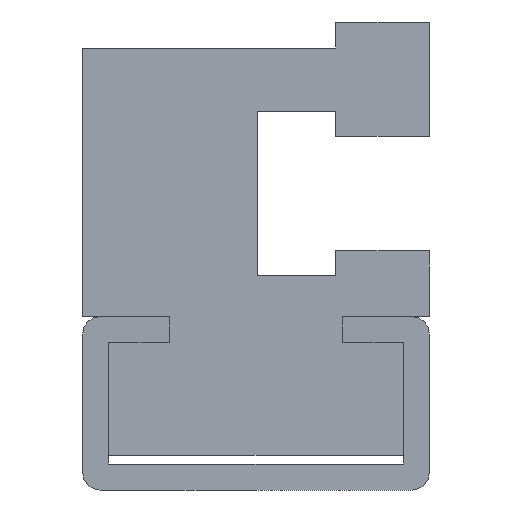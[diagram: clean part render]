
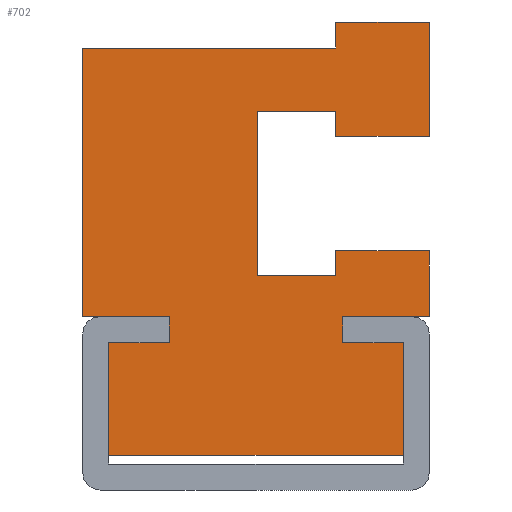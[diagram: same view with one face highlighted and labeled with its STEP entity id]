
A CAD part, front view. The second image highlights one B-rep face of the part: STEP entity #702.
In plain terms, the highlighted planar face has unit normal (0, -1, 0).
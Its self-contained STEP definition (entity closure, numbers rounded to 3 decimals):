
#61=CARTESIAN_POINT('Vertex',(4.6,0.,12.5)) ;
#66=CARTESIAN_POINT('Line Origine',(7.3,0.,12.5)) ;
#70=CARTESIAN_POINT('Vertex',(10.,0.,12.5)) ;
#97=CARTESIAN_POINT('Line Origine',(10.,0.,9.2)) ;
#101=CARTESIAN_POINT('Vertex',(10.,0.,5.9)) ;
#128=CARTESIAN_POINT('Line Origine',(7.3,0.,5.9)) ;
#132=CARTESIAN_POINT('Vertex',(4.6,0.,5.9)) ;
#159=CARTESIAN_POINT('Line Origine',(4.6,0.,6.625)) ;
#163=CARTESIAN_POINT('Vertex',(4.6,0.,7.35)) ;
#190=CARTESIAN_POINT('Line Origine',(2.35,0.,7.35)) ;
#194=CARTESIAN_POINT('Vertex',(0.1,0.,7.35)) ;
#221=CARTESIAN_POINT('Line Origine',(0.1,0.,2.6)) ;
#225=CARTESIAN_POINT('Vertex',(0.1,0.,-2.15)) ;
#252=CARTESIAN_POINT('Line Origine',(2.35,0.,-2.15)) ;
#256=CARTESIAN_POINT('Vertex',(4.6,0.,-2.15)) ;
#278=CARTESIAN_POINT('Line Origine',(4.6,0.,-1.425)) ;
#282=CARTESIAN_POINT('Vertex',(4.6,0.,-0.7)) ;
#309=CARTESIAN_POINT('Line Origine',(7.3,0.,-0.7)) ;
#313=CARTESIAN_POINT('Vertex',(10.,0.,-0.7)) ;
#342=CARTESIAN_POINT('Line Origine',(10.,0.,-2.6)) ;
#346=CARTESIAN_POINT('Vertex',(10.,0.,-4.5)) ;
#366=CARTESIAN_POINT('Line Origine',(7.5,0.,-4.5)) ;
#370=CARTESIAN_POINT('Vertex',(5.,0.,-4.5)) ;
#397=CARTESIAN_POINT('Line Origine',(5.,0.,-5.25)) ;
#401=CARTESIAN_POINT('Vertex',(5.,0.,-6.)) ;
#435=CARTESIAN_POINT('Line Origine',(6.75,0.,-6.)) ;
#439=CARTESIAN_POINT('Vertex',(8.5,0.,-6.)) ;
#465=CARTESIAN_POINT('Vertex',(8.5,0.,-12.5)) ;
#473=CARTESIAN_POINT('Line Origine',(8.5,0.,-9.25)) ;
#497=CARTESIAN_POINT('Line Origine',(0.,0.,-12.5)) ;
#501=CARTESIAN_POINT('Vertex',(-8.5,0.,-12.5)) ;
#521=CARTESIAN_POINT('Line Origine',(-8.5,0.,-9.25)) ;
#525=CARTESIAN_POINT('Vertex',(-8.5,0.,-6.)) ;
#554=CARTESIAN_POINT('Line Origine',(-6.75,0.,-6.)) ;
#558=CARTESIAN_POINT('Vertex',(-5.,0.,-6.)) ;
#578=CARTESIAN_POINT('Line Origine',(-5.,0.,-5.25)) ;
#582=CARTESIAN_POINT('Vertex',(-5.,0.,-4.5)) ;
#604=CARTESIAN_POINT('Line Origine',(-7.5,0.,-4.5)) ;
#608=CARTESIAN_POINT('Vertex',(-10.,0.,-4.5)) ;
#635=CARTESIAN_POINT('Line Origine',(-10.,0.,3.25)) ;
#639=CARTESIAN_POINT('Vertex',(-10.,0.,11.)) ;
#661=CARTESIAN_POINT('Axis2P3D Location',(0.,0.,0.)) ;
#666=CARTESIAN_POINT('Line Origine',(4.6,0.,11.75)) ;
#670=CARTESIAN_POINT('Vertex',(4.6,0.,11.)) ;
#673=CARTESIAN_POINT('Line Origine',(-2.7,0.,11.)) ;
#67=DIRECTION('Vector Direction',(-1.,0.,0.)) ;
#98=DIRECTION('Vector Direction',(0.,0.,1.)) ;
#129=DIRECTION('Vector Direction',(-1.,0.,0.)) ;
#160=DIRECTION('Vector Direction',(0.,0.,1.)) ;
#191=DIRECTION('Vector Direction',(-1.,0.,0.)) ;
#222=DIRECTION('Vector Direction',(0.,0.,-1.)) ;
#253=DIRECTION('Vector Direction',(1.,0.,0.)) ;
#279=DIRECTION('Vector Direction',(0.,0.,1.)) ;
#310=DIRECTION('Vector Direction',(1.,0.,0.)) ;
#343=DIRECTION('Vector Direction',(0.,0.,1.)) ;
#367=DIRECTION('Vector Direction',(-1.,0.,0.)) ;
#398=DIRECTION('Vector Direction',(0.,0.,-1.)) ;
#436=DIRECTION('Vector Direction',(-1.,0.,0.)) ;
#474=DIRECTION('Vector Direction',(0.,0.,1.)) ;
#498=DIRECTION('Vector Direction',(1.,0.,0.)) ;
#522=DIRECTION('Vector Direction',(0.,0.,-1.)) ;
#555=DIRECTION('Vector Direction',(-1.,0.,0.)) ;
#579=DIRECTION('Vector Direction',(0.,0.,1.)) ;
#605=DIRECTION('Vector Direction',(-1.,0.,0.)) ;
#636=DIRECTION('Vector Direction',(0.,0.,-1.)) ;
#662=DIRECTION('Axis2P3D Direction',(0.,1.,0.)) ;
#663=DIRECTION('Axis2P3D XDirection',(-1.,0.,0.)) ;
#667=DIRECTION('Vector Direction',(0.,0.,1.)) ;
#674=DIRECTION('Vector Direction',(1.,0.,0.)) ;
#664=AXIS2_PLACEMENT_3D('Plane Axis2P3D',#661,#662,#663) ;
#679=ORIENTED_EDGE('',*,*,#196,.F.) ;
#680=ORIENTED_EDGE('',*,*,#165,.F.) ;
#681=ORIENTED_EDGE('',*,*,#134,.F.) ;
#682=ORIENTED_EDGE('',*,*,#103,.F.) ;
#683=ORIENTED_EDGE('',*,*,#72,.F.) ;
#684=ORIENTED_EDGE('',*,*,#672,.F.) ;
#685=ORIENTED_EDGE('',*,*,#677,.F.) ;
#686=ORIENTED_EDGE('',*,*,#641,.T.) ;
#687=ORIENTED_EDGE('',*,*,#610,.F.) ;
#688=ORIENTED_EDGE('',*,*,#584,.F.) ;
#689=ORIENTED_EDGE('',*,*,#560,.T.) ;
#690=ORIENTED_EDGE('',*,*,#527,.T.) ;
#691=ORIENTED_EDGE('',*,*,#503,.F.) ;
#692=ORIENTED_EDGE('',*,*,#477,.T.) ;
#693=ORIENTED_EDGE('',*,*,#441,.T.) ;
#694=ORIENTED_EDGE('',*,*,#403,.F.) ;
#695=ORIENTED_EDGE('',*,*,#372,.F.) ;
#696=ORIENTED_EDGE('',*,*,#348,.T.) ;
#697=ORIENTED_EDGE('',*,*,#315,.F.) ;
#698=ORIENTED_EDGE('',*,*,#284,.F.) ;
#699=ORIENTED_EDGE('',*,*,#258,.F.) ;
#700=ORIENTED_EDGE('',*,*,#227,.F.) ;
#68=VECTOR('Line Direction',#67,1.) ;
#99=VECTOR('Line Direction',#98,1.) ;
#130=VECTOR('Line Direction',#129,1.) ;
#161=VECTOR('Line Direction',#160,1.) ;
#192=VECTOR('Line Direction',#191,1.) ;
#223=VECTOR('Line Direction',#222,1.) ;
#254=VECTOR('Line Direction',#253,1.) ;
#280=VECTOR('Line Direction',#279,1.) ;
#311=VECTOR('Line Direction',#310,1.) ;
#344=VECTOR('Line Direction',#343,1.) ;
#368=VECTOR('Line Direction',#367,1.) ;
#399=VECTOR('Line Direction',#398,1.) ;
#437=VECTOR('Line Direction',#436,1.) ;
#475=VECTOR('Line Direction',#474,1.) ;
#499=VECTOR('Line Direction',#498,1.) ;
#523=VECTOR('Line Direction',#522,1.) ;
#556=VECTOR('Line Direction',#555,1.) ;
#580=VECTOR('Line Direction',#579,1.) ;
#606=VECTOR('Line Direction',#605,1.) ;
#637=VECTOR('Line Direction',#636,1.) ;
#668=VECTOR('Line Direction',#667,1.) ;
#675=VECTOR('Line Direction',#674,1.) ;
#702=ADVANCED_FACE('PartBody',(#701),#665,.F.) ;
#72=EDGE_CURVE('',#62,#71,#69,.F.) ;
#103=EDGE_CURVE('',#71,#102,#100,.F.) ;
#134=EDGE_CURVE('',#102,#133,#131,.T.) ;
#165=EDGE_CURVE('',#133,#164,#162,.T.) ;
#196=EDGE_CURVE('',#164,#195,#193,.T.) ;
#227=EDGE_CURVE('',#195,#226,#224,.T.) ;
#258=EDGE_CURVE('',#226,#257,#255,.T.) ;
#284=EDGE_CURVE('',#257,#283,#281,.T.) ;
#315=EDGE_CURVE('',#283,#314,#312,.T.) ;
#348=EDGE_CURVE('',#347,#314,#345,.T.) ;
#372=EDGE_CURVE('',#347,#371,#369,.T.) ;
#403=EDGE_CURVE('',#371,#402,#400,.T.) ;
#441=EDGE_CURVE('',#440,#402,#438,.T.) ;
#477=EDGE_CURVE('',#466,#440,#476,.T.) ;
#503=EDGE_CURVE('',#466,#502,#500,.F.) ;
#527=EDGE_CURVE('',#526,#502,#524,.T.) ;
#560=EDGE_CURVE('',#559,#526,#557,.T.) ;
#584=EDGE_CURVE('',#559,#583,#581,.T.) ;
#610=EDGE_CURVE('',#583,#609,#607,.T.) ;
#641=EDGE_CURVE('',#640,#609,#638,.T.) ;
#672=EDGE_CURVE('',#671,#62,#669,.T.) ;
#677=EDGE_CURVE('',#640,#671,#676,.T.) ;
#678=EDGE_LOOP('',(#679,#680,#681,#682,#683,#684,#685,#686,#687,#688,#689,#690,#691,#692,#693,#694,#695,#696,#697,#698,#699,#700)) ;
#701=FACE_OUTER_BOUND('',#678,.T.) ;
#69=LINE('Line',#66,#68) ;
#100=LINE('Line',#97,#99) ;
#131=LINE('Line',#128,#130) ;
#162=LINE('Line',#159,#161) ;
#193=LINE('Line',#190,#192) ;
#224=LINE('Line',#221,#223) ;
#255=LINE('Line',#252,#254) ;
#281=LINE('Line',#278,#280) ;
#312=LINE('Line',#309,#311) ;
#345=LINE('Line',#342,#344) ;
#369=LINE('Line',#366,#368) ;
#400=LINE('Line',#397,#399) ;
#438=LINE('Line',#435,#437) ;
#476=LINE('Line',#473,#475) ;
#500=LINE('Line',#497,#499) ;
#524=LINE('Line',#521,#523) ;
#557=LINE('Line',#554,#556) ;
#581=LINE('Line',#578,#580) ;
#607=LINE('Line',#604,#606) ;
#638=LINE('Line',#635,#637) ;
#669=LINE('Line',#666,#668) ;
#676=LINE('Line',#673,#675) ;
#665=PLANE('',#664) ;
#62=VERTEX_POINT('',#61) ;
#71=VERTEX_POINT('',#70) ;
#102=VERTEX_POINT('',#101) ;
#133=VERTEX_POINT('',#132) ;
#164=VERTEX_POINT('',#163) ;
#195=VERTEX_POINT('',#194) ;
#226=VERTEX_POINT('',#225) ;
#257=VERTEX_POINT('',#256) ;
#283=VERTEX_POINT('',#282) ;
#314=VERTEX_POINT('',#313) ;
#347=VERTEX_POINT('',#346) ;
#371=VERTEX_POINT('',#370) ;
#402=VERTEX_POINT('',#401) ;
#440=VERTEX_POINT('',#439) ;
#466=VERTEX_POINT('',#465) ;
#502=VERTEX_POINT('',#501) ;
#526=VERTEX_POINT('',#525) ;
#559=VERTEX_POINT('',#558) ;
#583=VERTEX_POINT('',#582) ;
#609=VERTEX_POINT('',#608) ;
#640=VERTEX_POINT('',#639) ;
#671=VERTEX_POINT('',#670) ;
